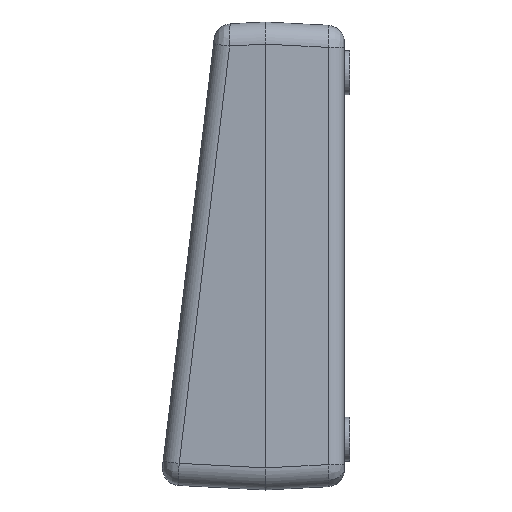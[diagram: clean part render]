
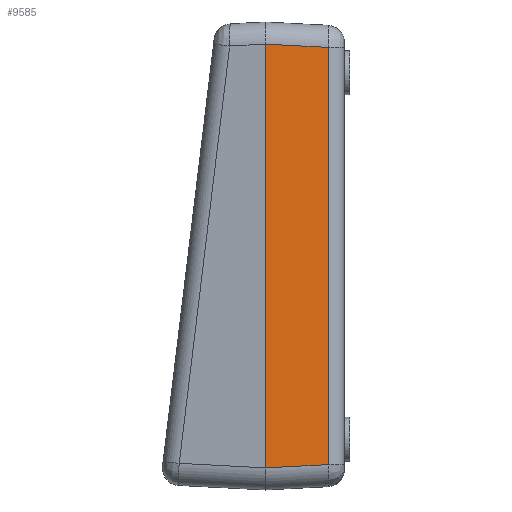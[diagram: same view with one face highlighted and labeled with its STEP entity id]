
A CAD part, left-side view. The second image highlights one B-rep face of the part: STEP entity #9585.
In plain terms, the highlighted planar face has unit normal (-0.999, -0.052, 0).
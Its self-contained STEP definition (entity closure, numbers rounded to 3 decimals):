
#518 = PLANE ( 'NONE',  #11794 ) ;
#1663 = LINE ( 'NONE', #13511, #5470 ) ;
#1701 = CARTESIAN_POINT ( 'NONE',  ( -94.183, 4.738, 61.192 ) ) ;
#1706 = EDGE_CURVE ( 'NONE', #11974, #2425, #1663, .T. ) ;
#2425 = VERTEX_POINT ( 'NONE', #3965 ) ;
#3085 = LINE ( 'NONE', #15006, #15011 ) ;
#3175 = VERTEX_POINT ( 'NONE', #14499 ) ;
#3965 = CARTESIAN_POINT ( 'NONE',  ( -95.15, 23.2, 62.159 ) ) ;
#4243 = EDGE_CURVE ( 'NONE', #11857, #3175, #12406, .T. ) ;
#4548 = DIRECTION ( 'NONE',  ( 0., 0., 1. ) ) ;
#4882 = EDGE_CURVE ( 'NONE', #3175, #11974, #11068, .T. ) ;
#5140 = CARTESIAN_POINT ( 'NONE',  ( -95.15, 23.2, -62.159 ) ) ;
#5191 = CARTESIAN_POINT ( 'NONE',  ( -95.25, 25.1, -68.75 ) ) ;
#5470 = VECTOR ( 'NONE', #14653, 1000. ) ;
#6663 = DIRECTION ( 'NONE',  ( 0.052, -0.997, 0.052 ) ) ;
#7762 = VECTOR ( 'NONE', #6663, 1000. ) ;
#8149 = EDGE_LOOP ( 'NONE', ( #9047, #9804, #13550, #10968 ) ) ;
#8783 = CARTESIAN_POINT ( 'NONE',  ( -94.183, 4.738, -68.75 ) ) ;
#9047 = ORIENTED_EDGE ( 'NONE', *, *, #4243, .T. ) ;
#9585 = ADVANCED_FACE ( 'NONE', ( #11024 ), #518, .F. ) ;
#9804 = ORIENTED_EDGE ( 'NONE', *, *, #4882, .T. ) ;
#9875 = DIRECTION ( 'NONE',  ( 0.999, 0.052, 0. ) ) ;
#10718 = VECTOR ( 'NONE', #13346, 1000. ) ;
#10968 = ORIENTED_EDGE ( 'NONE', *, *, #14637, .F. ) ;
#11024 = FACE_OUTER_BOUND ( 'NONE', #8149, .T. ) ;
#11068 = LINE ( 'NONE', #8783, #10718 ) ;
#11794 = AXIS2_PLACEMENT_3D ( 'NONE', #5191, #9875, #14512 ) ;
#11857 = VERTEX_POINT ( 'NONE', #5140 ) ;
#11974 = VERTEX_POINT ( 'NONE', #1701 ) ;
#12406 = LINE ( 'NONE', #14516, #7762 ) ;
#13346 = DIRECTION ( 'NONE',  ( 0., 0., 1. ) ) ;
#13511 = CARTESIAN_POINT ( 'NONE',  ( -94.892, 18.272, 61.901 ) ) ;
#13550 = ORIENTED_EDGE ( 'NONE', *, *, #1706, .T. ) ;
#14499 = CARTESIAN_POINT ( 'NONE',  ( -94.183, 4.738, -61.192 ) ) ;
#14512 = DIRECTION ( 'NONE',  ( -0.052, 0.999, 0. ) ) ;
#14516 = CARTESIAN_POINT ( 'NONE',  ( -95.268, 25.438, -62.277 ) ) ;
#14637 = EDGE_CURVE ( 'NONE', #11857, #2425, #3085, .T. ) ;
#14653 = DIRECTION ( 'NONE',  ( -0.052, 0.997, 0.052 ) ) ;
#15006 = CARTESIAN_POINT ( 'NONE',  ( -95.15, 23.2, -68.75 ) ) ;
#15011 = VECTOR ( 'NONE', #4548, 1000. ) ;
